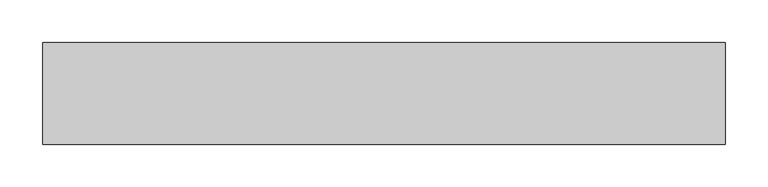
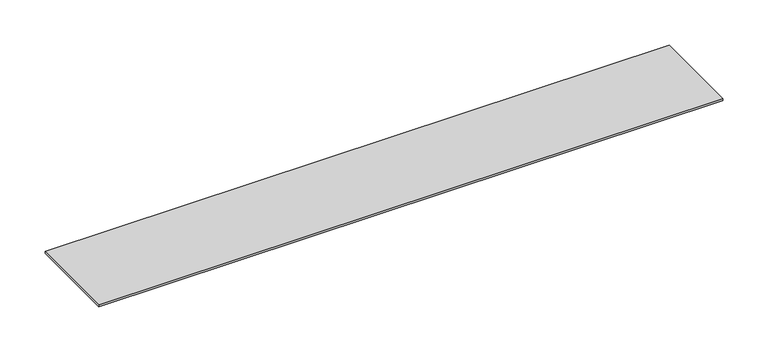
"""IFC4 building model written with IfcOpenShell, lengths in millimetres: proxy geometry, Electrical_Installation_Hager_Blank-Cover-BKA : Electrical_Installation_Hager_Blank-Cover-BKA."""

import ifcopenshell
import ifcopenshell.guid

model = None  # the IFC model being written
_history = None  # IfcOwnerHistory: only IFC2X3 demands one
_inside = {}  # id of a spatial element -> (the spatial element, [elements in it])
_under = {}  # id of a project, library or spatial element -> (it, [spatial elements below it])
_declared = {}  # id of a project -> (the project, [libraries it declares])
_typed = {}  # id of a type object -> (the type object, [elements of that type])
_made_of = {}  # id of a material, layer set ... -> (it, [elements and type objects made of it])


def new_model(schema):
    """Start an empty IFC model of exactly this schema.

    Asked for "IFC4X3", IfcOpenShell would pick the latest addendum, in which some entities
    have other attributes; the version numbers below select the first issue.
    IFC2X3 requires an IfcOwnerHistory on every rooted entity: one is made here for all.
    """
    global model, _history
    if schema == "IFC4X3":
        model = ifcopenshell.file(schema_version=(4, 3, 0, 0))
    else:
        model = ifcopenshell.file(schema=schema)
    _inside.clear()
    _under.clear()
    _declared.clear()
    _typed.clear()
    _made_of.clear()
    _history = None
    if model.schema == "IFC2X3":
        org = make("IfcOrganization", Name="unknown")
        user = make(
            "IfcPersonAndOrganization",
            ThePerson=make("IfcPerson", FamilyName="unknown"),
            TheOrganization=org,
        )
        app = make(
            "IfcApplication",
            ApplicationDeveloper=org,
            Version="unknown",
            ApplicationFullName="unknown",
            ApplicationIdentifier="unknown",
        )
        _history = make(
            "IfcOwnerHistory",
            OwningUser=user,
            OwningApplication=app,
            ChangeAction="ADDED",
            CreationDate=0,
        )
    return model


def make(cls, **values):
    """One entity of the class cls with the attributes given. An attribute that is None is left unset."""
    return model.create_entity(
        cls, **{name: value for name, value in values.items() if value is not None}
    )


def rooted(cls, **values):
    """An entity with a GlobalId (a new one), such as an element, a storey or a relation."""
    return make(cls, GlobalId=ifcopenshell.guid.new(), OwnerHistory=_history, **values)


def si_unit(unit_type, name, prefix=None):
    """IfcSIUnit, for example si_unit("LENGTHUNIT", "METRE", prefix="MILLI")."""
    return make("IfcSIUnit", UnitType=unit_type, Prefix=prefix, Name=name)


def assignment(units):
    """IfcUnitAssignment: the units of a project."""
    return None if units is None else make("IfcUnitAssignment", Units=units)


def point(xyz):
    """IfcCartesianPoint."""
    return None if xyz is None else make("IfcCartesianPoint", Coordinates=xyz)


def direction(xyz):
    """IfcDirection."""
    return None if xyz is None else make("IfcDirection", DirectionRatios=xyz)


def frame(location, z_axis=None, x_axis=None):
    """IfcAxis2Placement3D, a coordinate frame: its origin and axes. An axis left out is left unset."""
    return make(
        "IfcAxis2Placement3D",
        Location=point(location),
        Axis=direction(z_axis),
        RefDirection=direction(x_axis),
    )


def origin():
    """The frame at (0, 0, 0) with its axes left unset."""
    return frame((0.0, 0.0, 0.0))


def place(relative_to, where):
    """IfcLocalPlacement: puts the frame where relative to a parent placement (None: the world)."""
    return make(
        "IfcLocalPlacement", PlacementRelTo=relative_to, RelativePlacement=where
    )


def context(
    kind, dimensions, precision=None, world=None, true_north=None, identifier=None
):
    """IfcGeometricRepresentationContext, for example the 3D "Model" context."""
    return make(
        "IfcGeometricRepresentationContext",
        ContextIdentifier=identifier,
        ContextType=kind,
        CoordinateSpaceDimension=dimensions,
        Precision=precision,
        WorldCoordinateSystem=world,
        TrueNorth=true_north,
    )


def project(units=None, contexts=None):
    """IfcProject with its units and contexts."""
    return rooted(
        "IfcProject",
        Name="project",
        RepresentationContexts=contexts,
        UnitsInContext=assignment(units),
    )


def spatial(cls, under=None, at=None, **own):
    """A site, building, storey or space (cls), placed at a placement, below another one or the project."""
    s = rooted(cls, ObjectPlacement=at, **own)
    if under is not None:
        _under.setdefault(under.id(), (under, []))[1].append(s)
    return s


def polyline(points):
    """IfcPolyline through the points."""
    return make("IfcPolyline", Points=[point(p) for p in points])


def outline(outer, holes=None, kind="AREA"):
    """IfcArbitraryClosedProfileDef: a profile drawn as a closed curve; with holes, ...WithVoids."""
    if holes is None:
        return make("IfcArbitraryClosedProfileDef", ProfileType=kind, OuterCurve=outer)
    return make(
        "IfcArbitraryProfileDefWithVoids",
        ProfileType=kind,
        OuterCurve=outer,
        InnerCurves=holes,
    )


def extrude(swept, where, along, depth):
    """IfcExtrudedAreaSolid: the profile swept, set in the frame where, extruded along a direction by depth."""
    return make(
        "IfcExtrudedAreaSolid",
        SweptArea=swept,
        Position=where,
        ExtrudedDirection=direction(along),
        Depth=depth,
    )


def shape(context_of_items, identifier, shape_type, items):
    """IfcShapeRepresentation: the items that make up one representation, for example the "Body"."""
    return make(
        "IfcShapeRepresentation",
        ContextOfItems=context_of_items,
        RepresentationIdentifier=identifier,
        RepresentationType=shape_type,
        Items=items,
    )


def source(mapping_origin, context_of_items, identifier, shape_type, items):
    """IfcRepresentationMap: a shape defined once, which mapped items show again and again."""
    return make(
        "IfcRepresentationMap",
        MappingOrigin=mapping_origin,
        MappedRepresentation=shape(context_of_items, identifier, shape_type, items),
    )


def transform(
    local_origin,
    x_axis=None,
    y_axis=None,
    z_axis=None,
    scale=None,
    scale2=None,
    scale3=None,
    uniform=True,
):
    """IfcCartesianTransformationOperator3D, or its non-uniform kind. x_axis, y_axis, z_axis: its Axis1, 2, 3."""
    if uniform:
        return make(
            "IfcCartesianTransformationOperator3D",
            Axis1=direction(x_axis),
            Axis2=direction(y_axis),
            LocalOrigin=point(local_origin),
            Scale=scale,
            Axis3=direction(z_axis),
        )
    return make(
        "IfcCartesianTransformationOperator3DnonUniform",
        Axis1=direction(x_axis),
        Axis2=direction(y_axis),
        LocalOrigin=point(local_origin),
        Scale=scale,
        Axis3=direction(z_axis),
        Scale2=scale2,
        Scale3=scale3,
    )


def mapped(mapping_source, mapping_target):
    """IfcMappedItem: shows the shape of a source again, moved by a transform."""
    return make(
        "IfcMappedItem", MappingSource=mapping_source, MappingTarget=mapping_target
    )


def made_of(thing, what):
    """Note that an element or type object is made of a material, layer set ...; save() writes the relation."""
    if what is not None:
        _made_of.setdefault(what.id(), (what, []))[1].append(thing)
    return thing


def element(
    cls,
    number,
    at=None,
    inside=None,
    cuts=None,
    type_object=None,
    material=None,
    context=None,
    identifier="Body",
    shape_type=None,
    held_by="IfcProductDefinitionShape",
    body=None,
    shapes=None,
    **own,
):
    """One element of the class cls, such as IfcWall. Its Tag is "e" and its number.

    at: its placement. inside: the storey or other place that contains it. cuts: it is an
    opening in that element (IfcRelVoidsElement). A single representation is given by context,
    identifier, shape_type and body (its items); several are given by shapes. held_by: the class
    of the entity that holds the representations. save() writes the other relations.
    """
    e = rooted(cls, Tag="e%d" % number, ObjectPlacement=at, **own)
    if body is not None:
        shapes = [shape(context, identifier, shape_type, body)]
    if shapes is not None:
        e.Representation = make(held_by, Representations=shapes)
    if inside is not None:
        _inside.setdefault(inside.id(), (inside, []))[1].append(e)
    if cuts is not None:
        rooted(
            "IfcRelVoidsElement", RelatingBuildingElement=cuts, RelatedOpeningElement=e
        )
    if type_object is not None:
        _typed.setdefault(type_object.id(), (type_object, []))[1].append(e)
    return made_of(e, material)


def aggregate(whole, parts):
    """IfcRelAggregates: a whole, such as a stair, and the parts it consists of."""
    return rooted("IfcRelAggregates", RelatingObject=whole, RelatedObjects=parts)


def save(model, path):
    """Write the relations noted so far, then the file.

    IfcRelAggregates (storeys below a building ...), IfcRelContainedInSpatialStructure (elements
    in a storey), IfcRelDefinesByType, IfcRelAssociatesMaterial and IfcRelDeclares: one each for
    every whole, place, type object, material and project.
    """
    for whole, parts in _under.values():
        aggregate(whole, parts)
    for where, things in _inside.values():
        rooted(
            "IfcRelContainedInSpatialStructure",
            RelatedElements=things,
            RelatingStructure=where,
        )
    for kind, things in _typed.values():
        rooted("IfcRelDefinesByType", RelatedObjects=things, RelatingType=kind)
    for what, things in _made_of.values():
        rooted("IfcRelAssociatesMaterial", RelatedObjects=things, RelatingMaterial=what)
    for by, libraries in _declared.values():
        rooted("IfcRelDeclares", RelatingContext=by, RelatedDefinitions=libraries)
    model.write(path)


def electrical_fixtures_012dd379(model_context):
    return source(origin(), model_context, "Body", "SweptSolid", [
        extrude(outline(polyline([(800.0, 59.75), (800.0, -59.75), (0.0, -59.75), (0.0, 59.75), (800.0, 59.75)])), frame((0.0, 0.0, 10.0), z_axis=(0.0, 0.0, 1.0), x_axis=(1.0, 0.0, 0.0)), (0.0, 0.0, 1.0), 3.0),
    ])


if __name__ == "__main__":
    model = new_model("IFC4")
    model_context = context("Model", 3, world=origin())
    ifc_project = project(units=[si_unit("LENGTHUNIT", "METRE", prefix="MILLI")], contexts=[model_context])
    site = spatial("IfcSite", under=ifc_project)
    building = spatial("IfcBuilding", under=site)
    placement = place(None, origin())
    electrical_fixtures_shape = electrical_fixtures_012dd379(model_context)
    element("IfcBuildingElementProxy", 1, Name="Electrical_Installation_Hager_Blank-Cover-BKA : Electrical_Installation_Hager_Blank-Cover-BKA", ObjectType="Electrical_Installation_Hager_Blank-Cover-BKA : Electrical_Installation_Hager_Blank-Cover-BKA", at=placement, inside=building, context=model_context, shape_type="MappedRepresentation", body=[
        mapped(electrical_fixtures_shape, transform((0.0, 0.0, 0.0), x_axis=(1.0, 0.0, 0.0), y_axis=(0.0, 1.0, 0.0), z_axis=(0.0, 0.0, 1.0))),
    ])
    save(model, "model.ifc")
